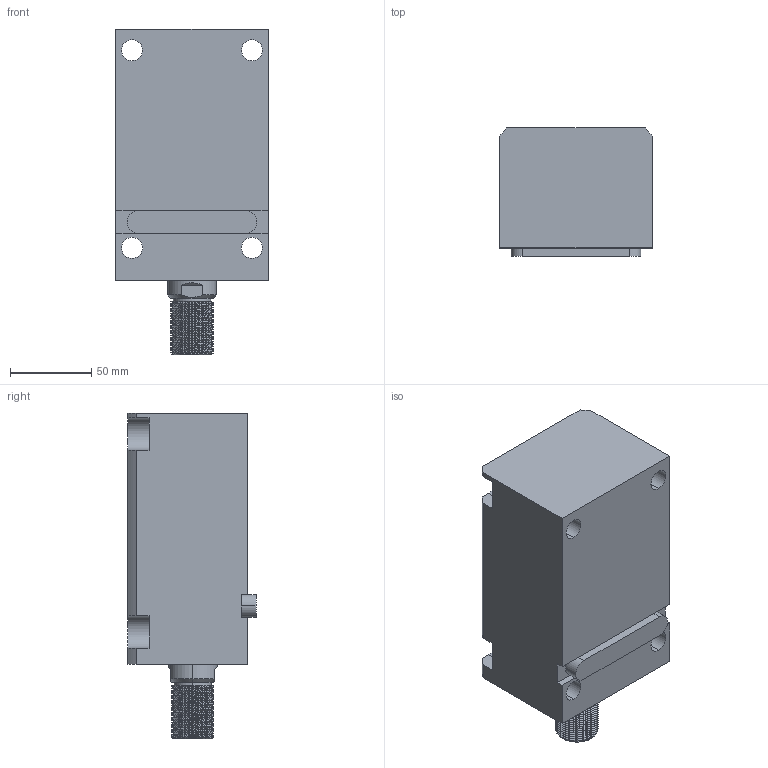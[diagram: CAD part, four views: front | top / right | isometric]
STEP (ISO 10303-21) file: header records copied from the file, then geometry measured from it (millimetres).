
FILE_DESCRIPTION (( 'STEP AP203' ), '1' );
FILE_NAME ('CHTB-LA50-95W.STEP', '2018-05-18T02:04:01', ( '' ), ( '' ), 'SwSTEP 2.0', 'SolidWorks 2015', '' );
FILE_SCHEMA (( 'CONFIG_CONTROL_DESIGN' ));
Length unit declared in the file: millimetre
Products named in the file (4): CHTB-LA50-95W; 活塞杆LA50-95W; 掛极LA50-95W; CHTM-SDMA50QG
Assembly tree (3 placements, depth 2):
  CHTB-LA50-95W
    掛极LA50-95W
    活塞杆LA50-95W
    CHTM-SDMA50QG
Bounding box: 94 x 79 x 201 mm (x, y, z)
Volume: 927932.2 mm3; surface area: 142075.9 mm2
Topology: 3 solids, 3 shells, 244 faces, 670 edges, 447 vertices
Faces by surface type: cylinder 136, plane 55, cone 21, bspline 16, torus 16
Entity records: 15046 total; most frequent: CARTESIAN_POINT 8903, ORIENTED_EDGE 1332, DIRECTION 1073, EDGE_CURVE 666, VERTEX_POINT 447, AXIS2_PLACEMENT_3D 416, EDGE_LOOP 277, FACE_OUTER_BOUND 244
